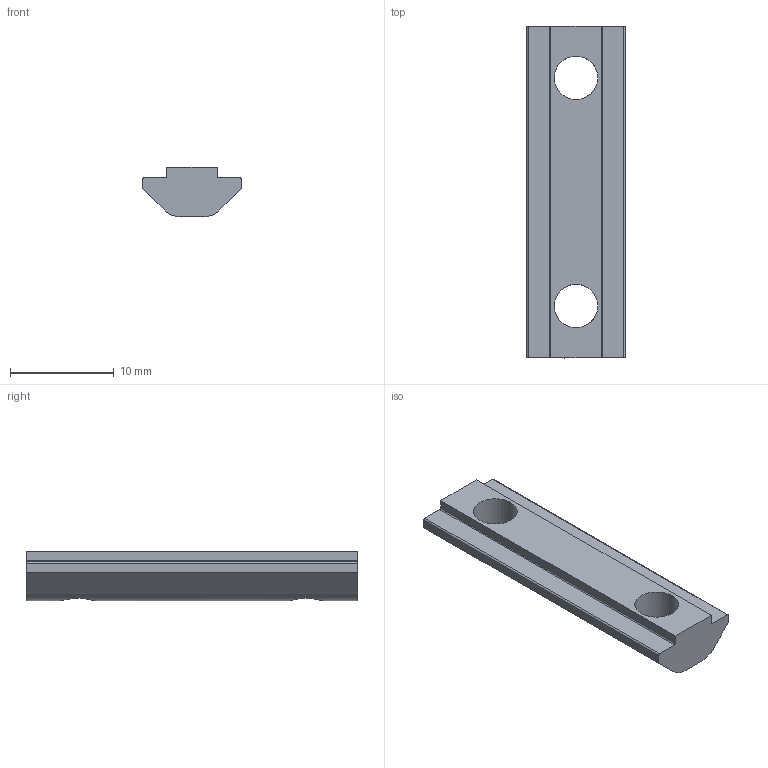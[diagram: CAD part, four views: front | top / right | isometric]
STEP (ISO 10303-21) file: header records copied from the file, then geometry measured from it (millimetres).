
FILE_DESCRIPTION(('STEP AP214'),'1');
FILE_NAME('CA.GWP.5.22.F.stp','2023-11-30T08:54:12',(' '),(' '),'Spatial InterOp 3D',' ',' ');
FILE_SCHEMA(('AUTOMOTIVE_DESIGN { 1 0 10303 214 1 1 1 1 }'));
Length unit declared in the file: millimetre
Products named in the file (2): CA.GWP.5.22.F; GWP.5.22.F
Assembly tree (1 placements, depth 2):
  CA.GWP.5.22.F
    GWP.5.22.F
Bounding box: 9.5 x 32 x 4.75 mm (x, y, z)
Volume: 924.8 mm3; surface area: 931.5 mm2
Topology: 1 solids, 1 shells, 22 faces, 66 edges, 44 vertices
Faces by surface type: plane 14, cylinder 8
Full cylindrical faces by diameter (mm): 4.2 x2
Entity records: 1063 total; most frequent: CARTESIAN_POINT 196, DIRECTION 124, ORIENTED_EDGE 124, EDGE_CURVE 62, AXIS2_PLACEMENT_3D 42, VERTEX_POINT 42, LINE 40, VECTOR 40
